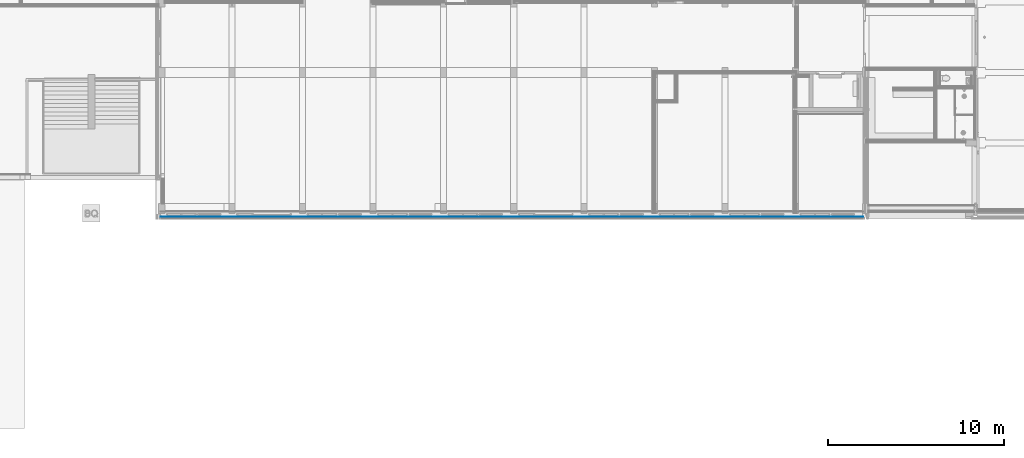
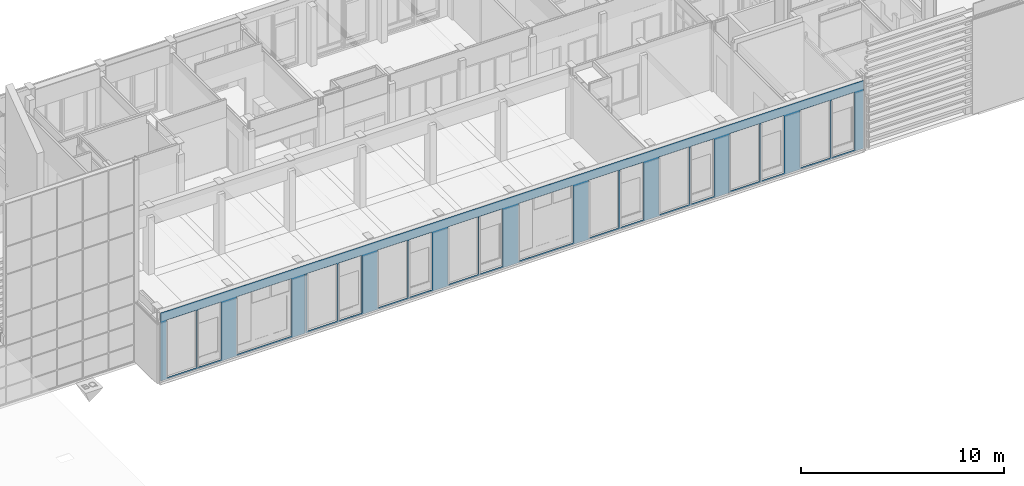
# One storey, part 55 of 109: 1 building element part, 18 openings, 1 element without a shape of its own.
"""IFC2X3 building model written with IfcOpenShell, lengths in millimetres."""

import ifcopenshell
import ifcopenshell.guid

model = None  # the IFC model being written
_history = None  # IfcOwnerHistory: only IFC2X3 demands one
_inside = {}  # id of a spatial element -> (the spatial element, [elements in it])
_under = {}  # id of a project, library or spatial element -> (it, [spatial elements below it])
_declared = {}  # id of a project -> (the project, [libraries it declares])
_typed = {}  # id of a type object -> (the type object, [elements of that type])
_made_of = {}  # id of a material, layer set ... -> (it, [elements and type objects made of it])


def new_model(schema):
    """Start an empty IFC model of exactly this schema.

    Asked for "IFC4X3", IfcOpenShell would pick the latest addendum, in which some entities
    have other attributes; the version numbers below select the first issue.
    IFC2X3 requires an IfcOwnerHistory on every rooted entity: one is made here for all.
    """
    global model, _history
    if schema == "IFC4X3":
        model = ifcopenshell.file(schema_version=(4, 3, 0, 0))
    else:
        model = ifcopenshell.file(schema=schema)
    _inside.clear()
    _under.clear()
    _declared.clear()
    _typed.clear()
    _made_of.clear()
    _history = None
    if model.schema == "IFC2X3":
        org = make("IfcOrganization", Name="unknown")
        user = make(
            "IfcPersonAndOrganization",
            ThePerson=make("IfcPerson", FamilyName="unknown"),
            TheOrganization=org,
        )
        app = make(
            "IfcApplication",
            ApplicationDeveloper=org,
            Version="unknown",
            ApplicationFullName="unknown",
            ApplicationIdentifier="unknown",
        )
        _history = make(
            "IfcOwnerHistory",
            OwningUser=user,
            OwningApplication=app,
            ChangeAction="ADDED",
            CreationDate=0,
        )
    return model


def make(cls, **values):
    """One entity of the class cls with the attributes given. An attribute that is None is left unset."""
    return model.create_entity(
        cls, **{name: value for name, value in values.items() if value is not None}
    )


def entity(cls, *values):
    """Any entity or typed value of the class cls, its attributes in the order of the schema. None: left unset."""
    e = model.create_entity(cls)
    for i, value in enumerate(values):
        if value is not None:
            e[i] = value
    return e


def rooted(cls, **values):
    """An entity with a GlobalId (a new one), such as an element, a storey or a relation."""
    return make(cls, GlobalId=ifcopenshell.guid.new(), OwnerHistory=_history, **values)


def si_unit(unit_type, name, prefix=None):
    """IfcSIUnit, for example si_unit("LENGTHUNIT", "METRE", prefix="MILLI")."""
    return make("IfcSIUnit", UnitType=unit_type, Prefix=prefix, Name=name)


def converted_unit(unit_type, name, factor, base, dimensions=None, offset=None):
    """IfcConversionBasedUnit, such as the inch: factor (a typed value) times the base unit."""
    return make(
        "IfcConversionBasedUnit"
        if offset is None
        else "IfcConversionBasedUnitWithOffset",
        ConversionOffset=offset,
        Dimensions=None
        if dimensions is None
        else entity("IfcDimensionalExponents", *dimensions),
        UnitType=unit_type,
        Name=name,
        ConversionFactor=make(
            "IfcMeasureWithUnit", ValueComponent=factor, UnitComponent=base
        ),
    )


def derived_unit(unit_type, elements):
    """IfcDerivedUnit: a product of units, each with its exponent."""
    return make(
        "IfcDerivedUnit",
        Elements=[
            make("IfcDerivedUnitElement", Unit=unit, Exponent=power)
            for unit, power in elements
        ],
        UnitType=unit_type,
    )


def money_unit(currency):
    """IfcMonetaryUnit."""
    return make("IfcMonetaryUnit", Currency=currency)


def assignment(units):
    """IfcUnitAssignment: the units of a project."""
    return None if units is None else make("IfcUnitAssignment", Units=units)


def point(xyz):
    """IfcCartesianPoint."""
    return None if xyz is None else make("IfcCartesianPoint", Coordinates=xyz)


def direction(xyz):
    """IfcDirection."""
    return None if xyz is None else make("IfcDirection", DirectionRatios=xyz)


def frame(location, z_axis=None, x_axis=None):
    """IfcAxis2Placement3D, a coordinate frame: its origin and axes. An axis left out is left unset."""
    return make(
        "IfcAxis2Placement3D",
        Location=point(location),
        Axis=direction(z_axis),
        RefDirection=direction(x_axis),
    )


def origin_with_axes():
    """The frame at (0, 0, 0) with the z axis (0, 0, 1) and the x axis (1, 0, 0) written out."""
    return frame((0.0, 0.0, 0.0), z_axis=(0.0, 0.0, 1.0), x_axis=(1.0, 0.0, 0.0))


def place(relative_to, where):
    """IfcLocalPlacement: puts the frame where relative to a parent placement (None: the world)."""
    return make(
        "IfcLocalPlacement", PlacementRelTo=relative_to, RelativePlacement=where
    )


def context(
    kind, dimensions, precision=None, world=None, true_north=None, identifier=None
):
    """IfcGeometricRepresentationContext, for example the 3D "Model" context."""
    return make(
        "IfcGeometricRepresentationContext",
        ContextIdentifier=identifier,
        ContextType=kind,
        CoordinateSpaceDimension=dimensions,
        Precision=precision,
        WorldCoordinateSystem=world,
        TrueNorth=true_north,
    )


def subcontext(parent, identifier, kind, view, scale=None):
    """IfcGeometricRepresentationSubContext, for example "Body" below "Model"."""
    return make(
        "IfcGeometricRepresentationSubContext",
        ContextIdentifier=identifier,
        ContextType=kind,
        ParentContext=parent,
        TargetScale=scale,
        TargetView=view,
    )


def project(units=None, contexts=None):
    """IfcProject with its units and contexts."""
    return rooted(
        "IfcProject",
        Name="project",
        RepresentationContexts=contexts,
        UnitsInContext=assignment(units),
    )


def spatial(cls, under=None, at=None, **own):
    """A site, building, storey or space (cls), placed at a placement, below another one or the project."""
    s = rooted(cls, ObjectPlacement=at, **own)
    if under is not None:
        _under.setdefault(under.id(), (under, []))[1].append(s)
    return s


def faces_of(points, faces, orient=None, outer=None):
    """IfcFace entities. A face is a list of loops; a loop is a list of indices into points, from 0.

    orient and outer hold one flag for each loop. By default every Orientation is true, the
    first loop of a face is its IfcFaceOuterBound and the others are IfcFaceBound.
    """
    made = []
    for i, loops in enumerate(faces):
        bounds = []
        for j, loop in enumerate(loops):
            is_outer = j == 0 if outer is None else outer[i][j]
            bounds.append(
                make(
                    "IfcFaceOuterBound" if is_outer else "IfcFaceBound",
                    Bound=make("IfcPolyLoop", Polygon=[points[k] for k in loop]),
                    Orientation=True if orient is None else orient[i][j],
                )
            )
        made.append(make("IfcFace", Bounds=bounds))
    return made


def faceted_brep(points, faces, orient=None, outer=None, voids=None):
    """IfcFacetedBrep: a solid bounded by flat faces; with voids (closed shells), ...WithVoids."""
    shared = [point(p) for p in points]
    hull = make("IfcClosedShell", CfsFaces=faces_of(shared, faces, orient, outer))
    if voids is None:
        return make("IfcFacetedBrep", Outer=hull)
    return make(
        "IfcFacetedBrepWithVoids",
        Outer=hull,
        Voids=[
            make(cls, CfsFaces=faces_of(shared, fs, o, b)) for cls, fs, o, b in voids
        ],
    )


def shape(context_of_items, identifier, shape_type, items):
    """IfcShapeRepresentation: the items that make up one representation, for example the "Body"."""
    return make(
        "IfcShapeRepresentation",
        ContextOfItems=context_of_items,
        RepresentationIdentifier=identifier,
        RepresentationType=shape_type,
        Items=items,
    )


def material(Name=None, Category=None):
    """IfcMaterial."""
    return make("IfcMaterial", Name=Name, Category=Category)


def made_of(thing, what):
    """Note that an element or type object is made of a material, layer set ...; save() writes the relation."""
    if what is not None:
        _made_of.setdefault(what.id(), (what, []))[1].append(thing)
    return thing


def type_object(cls, material=None, **own):
    """A type object (cls), such as IfcWallType, which elements share."""
    return made_of(rooted(cls, **own), material)


def element(
    cls,
    number,
    at=None,
    inside=None,
    cuts=None,
    type_object=None,
    material=None,
    context=None,
    identifier="Body",
    shape_type=None,
    held_by="IfcProductDefinitionShape",
    body=None,
    shapes=None,
    **own,
):
    """One element of the class cls, such as IfcWall. Its Tag is "e" and its number.

    at: its placement. inside: the storey or other place that contains it. cuts: it is an
    opening in that element (IfcRelVoidsElement). A single representation is given by context,
    identifier, shape_type and body (its items); several are given by shapes. held_by: the class
    of the entity that holds the representations. save() writes the other relations.
    """
    e = rooted(cls, Tag="e%d" % number, ObjectPlacement=at, **own)
    if body is not None:
        shapes = [shape(context, identifier, shape_type, body)]
    if shapes is not None:
        e.Representation = make(held_by, Representations=shapes)
    if inside is not None:
        _inside.setdefault(inside.id(), (inside, []))[1].append(e)
    if cuts is not None:
        rooted(
            "IfcRelVoidsElement", RelatingBuildingElement=cuts, RelatedOpeningElement=e
        )
    if type_object is not None:
        _typed.setdefault(type_object.id(), (type_object, []))[1].append(e)
    return made_of(e, material)


def aggregate(whole, parts):
    """IfcRelAggregates: a whole, such as a stair, and the parts it consists of."""
    return rooted("IfcRelAggregates", RelatingObject=whole, RelatedObjects=parts)


def save(model, path):
    """Write the relations noted so far, then the file.

    IfcRelAggregates (storeys below a building ...), IfcRelContainedInSpatialStructure (elements
    in a storey), IfcRelDefinesByType, IfcRelAssociatesMaterial and IfcRelDeclares: one each for
    every whole, place, type object, material and project.
    """
    for whole, parts in _under.values():
        aggregate(whole, parts)
    for where, things in _inside.values():
        rooted(
            "IfcRelContainedInSpatialStructure",
            RelatedElements=things,
            RelatingStructure=where,
        )
    for kind, things in _typed.values():
        rooted("IfcRelDefinesByType", RelatedObjects=things, RelatingType=kind)
    for what, things in _made_of.values():
        rooted("IfcRelAssociatesMaterial", RelatedObjects=things, RelatingMaterial=what)
    for by, libraries in _declared.values():
        rooted("IfcRelDeclares", RelatingContext=by, RelatedDefinitions=libraries)
    model.write(path)


model = new_model("IFC2X3")

# Units and contexts
model_context = context("Model", 3, precision=0.01, world=origin_with_axes(), true_north=direction((0.0, 1.0)))
body_context = subcontext(model_context, "Body", "Model", "MODEL_VIEW")
ifc_project = project(units=[si_unit("LENGTHUNIT", "METRE", prefix="MILLI"), si_unit("AREAUNIT", "SQUARE_METRE"), si_unit("VOLUMEUNIT", "CUBIC_METRE"), converted_unit("PLANEANGLEUNIT", "DEGREE", entity("IfcPlaneAngleMeasure", 0.0174532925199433), si_unit("PLANEANGLEUNIT", "RADIAN"), dimensions=[0, 0, 0, 0, 0, 0, 0]), money_unit("EUR"), converted_unit("TIMEUNIT", "Year", entity("IfcTimeMeasure", 31557600.0), si_unit("TIMEUNIT", "SECOND"), dimensions=[0, 0, 1, 0, 0, 0, 0]), si_unit("MASSUNIT", "GRAM", prefix="KILO"), si_unit("THERMODYNAMICTEMPERATUREUNIT", "DEGREE_CELSIUS"), si_unit("LUMINOUSINTENSITYUNIT", "LUMEN"), si_unit("ENERGYUNIT", "JOULE", prefix="MEGA"), derived_unit("THERMALCONDUCTANCEUNIT", [(si_unit("POWERUNIT", "WATT"), 1), (si_unit("LENGTHUNIT", "METRE"), -1), (si_unit("THERMODYNAMICTEMPERATUREUNIT", "KELVIN"), -1)]), derived_unit("SPECIFICHEATCAPACITYUNIT", [(si_unit("ENERGYUNIT", "JOULE"), 1), (si_unit("MASSUNIT", "GRAM", prefix="KILO"), -1), (si_unit("THERMODYNAMICTEMPERATUREUNIT", "KELVIN"), -1)]), derived_unit("MASSDENSITYUNIT", [(si_unit("MASSUNIT", "GRAM", prefix="KILO"), 1), (si_unit("VOLUMEUNIT", "CUBIC_METRE"), -1)])], contexts=[model_context])

# Site, building, storey
site_placement = place(None, origin_with_axes())
site = spatial("IfcSite", under=ifc_project, at=site_placement, Name="<site naam>", CompositionType="ELEMENT")
building_placement = place(site_placement, origin_with_axes())
building = spatial("IfcBuilding", under=site, at=building_placement, Name="<Naam gebouw>", CompositionType="ELEMENT")
storey_placement = place(building_placement, origin_with_axes())
storey = spatial("IfcBuildingStorey", under=building, at=storey_placement, Name="00 Begane grond", CompositionType="ELEMENT", Elevation=0.0)

# Wall, openings, building element part
wall_type = type_object("IfcWallType", Name="HSB_285 gevelbeplating 420", PredefinedType="NOTDEFINED")
wall_placement = place(storey_placement, frame((51865.00000000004, -297.9999999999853, 0.0), z_axis=(0.0, 0.0, 1.0), x_axis=(-1.0, 0.0, 0.0)))
wall = element("IfcWall", 1, at=wall_placement, inside=storey, type_object=wall_type, Name="21_Binnenwand_HSB_285")
opening_1_placement = place(wall_placement, frame((37163.99999999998, 0.0, 100.0), z_axis=(0.0, 0.0, 1.0), x_axis=(1.0, 0.0, 0.0)))
element("IfcOpeningElement", 2, at=opening_1_placement, cuts=wall, Name="21_BU-A-01b_305", context=body_context, shape_type="Brep", body=[
    faceted_brep([(-663.0000000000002, -212.9999999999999, 0.0), (-663.0000000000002, -212.9999999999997, 3450.0), (-663.0000000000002, 1.000000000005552, 3450.0), (-663.0000000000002, 1.00000000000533, 0.0), (-663.0000000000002, -421.0000000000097, 0.0), (-663.0000000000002, -421.0000000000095, 3450.0), (663.0000000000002, -212.9999999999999, 3450.0), (663.0000000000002, 1.000000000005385, 3450.0), (663.0000000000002, 1.000000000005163, 0.0), (663.0000000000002, -213.0000000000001, 0.0), (663.0000000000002, -421.0000000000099, 0.0), (663.0000000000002, -421.0000000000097, 3450.0)], [[[0, 1, 2, 3]], [[1, 0, 4, 5]], [[1, 6, 7, 2]], [[7, 8, 3, 2]], [[9, 0, 3, 8]], [[0, 9, 10, 4]], [[5, 4, 10, 11]], [[6, 1, 5, 11]], [[6, 9, 8, 7]], [[9, 6, 11, 10]]]),
])
opening_2_placement = place(wall_placement, frame((38753.9999887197, 0.0, 100.0), z_axis=(0.0, 0.0, 1.0), x_axis=(1.0, 0.0, 0.0)))
element("IfcOpeningElement", 3, at=opening_2_placement, cuts=wall, Name="21_BU-A-01a_305", context=body_context, shape_type="Brep", body=[
    faceted_brep([(-850.9999999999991, -212.9999999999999, 0.0), (-850.9999999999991, -212.9999999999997, 3450.0), (-850.9999999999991, 1.000000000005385, 3450.0), (-850.9999999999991, 1.000000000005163, 0.0), (-850.9999999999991, -421.0000000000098, 0.0), (-850.9999999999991, -421.0000000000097, 3450.0), (850.9999999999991, -212.9999999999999, 3450.0), (851.0000000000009, 1.000000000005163, 3450.0), (851.0000000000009, 1.000000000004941, 0.0), (850.9999999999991, -213.0000000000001, 0.0), (850.9999999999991, -421.00000000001, 0.0), (850.9999999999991, -421.0000000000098, 3450.0)], [[[0, 1, 2, 3]], [[1, 0, 4, 5]], [[1, 6, 7, 2]], [[7, 8, 3, 2]], [[9, 0, 3, 8]], [[0, 9, 10, 4]], [[5, 4, 10, 11]], [[6, 1, 5, 11]], [[6, 9, 8, 7]], [[9, 6, 11, 10]]]),
])
opening_3_placement = place(wall_placement, frame((29164.04998845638, 0.0, 100.0), z_axis=(0.0, 0.0, 1.0), x_axis=(1.0, 0.0, 0.0)))
element("IfcOpeningElement", 4, at=opening_3_placement, cuts=wall, Name="21_BU-A-01b_305", context=body_context, shape_type="Brep", body=[
    faceted_brep([(-663.0000000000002, -212.9999999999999, 0.0), (-663.0000000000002, -212.9999999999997, 3450.0), (-663.0000000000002, 1.000000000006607, 3450.0), (-663.0000000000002, 1.000000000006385, 0.0), (-663.0000000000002, -421.0000000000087, 0.0), (-663.0000000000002, -421.0000000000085, 3450.0), (663.0000000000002, -212.9999999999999, 3450.0), (663.0000000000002, 1.000000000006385, 3450.0), (663.0000000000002, 1.000000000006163, 0.0), (663.0000000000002, -213.0000000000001, 0.0), (663.0000000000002, -421.0000000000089, 0.0), (663.0000000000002, -421.0000000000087, 3450.0)], [[[0, 1, 2, 3]], [[1, 0, 4, 5]], [[1, 6, 7, 2]], [[7, 8, 3, 2]], [[9, 0, 3, 8]], [[0, 9, 10, 4]], [[5, 4, 10, 11]], [[6, 1, 5, 11]], [[6, 9, 8, 7]], [[9, 6, 11, 10]]]),
])
opening_4_placement = place(wall_placement, frame((26754.00000000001, 0.0, 100.0), z_axis=(0.0, 0.0, 1.0), x_axis=(1.0, 0.0, 0.0)))
element("IfcOpeningElement", 5, at=opening_4_placement, cuts=wall, Name="21_BU-A-01a_305", context=body_context, shape_type="Brep", body=[
    faceted_brep([(-850.9999999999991, -212.9999999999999, 0.0), (-850.9999999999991, -212.9999999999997, 3450.0), (-850.9999999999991, 1.000000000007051, 3450.0), (-850.9999999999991, 1.000000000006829, 0.0), (-850.9999999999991, -421.0000000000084, 0.0), (-850.9999999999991, -421.0000000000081, 3450.0), (850.9999999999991, -212.9999999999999, 3450.0), (850.9999999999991, 1.000000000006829, 3450.0), (850.9999999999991, 1.000000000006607, 0.0), (850.9999999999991, -213.0000000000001, 0.0), (850.9999999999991, -421.0000000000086, 0.0), (850.9999999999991, -421.0000000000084, 3450.0)], [[[0, 1, 2, 3]], [[1, 0, 4, 5]], [[1, 6, 7, 2]], [[7, 8, 3, 2]], [[9, 0, 3, 8]], [[0, 9, 10, 4]], [[5, 4, 10, 11]], [[6, 1, 5, 11]], [[6, 9, 8, 7]], [[9, 6, 11, 10]]]),
])
opening_5_placement = place(wall_placement, frame((25163.98053643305, 0.0, 100.0), z_axis=(0.0, 0.0, 1.0), x_axis=(1.0, 0.0, 0.0)))
element("IfcOpeningElement", 6, at=opening_5_placement, cuts=wall, Name="21_BU-A-01b_305", context=body_context, shape_type="Brep", body=[
    faceted_brep([(-663.0000000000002, -212.9999999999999, 0.0), (-663.0000000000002, -212.9999999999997, 3450.0), (-663.0000000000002, 1.000000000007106, 3450.0), (-663.0000000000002, 1.000000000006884, 0.0), (-663.0000000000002, -421.0000000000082, 0.0), (-663.0000000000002, -421.000000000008, 3450.0), (663.0000000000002, -212.9999999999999, 3450.0), (663.0000000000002, 1.00000000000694, 3450.0), (663.0000000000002, 1.000000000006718, 0.0), (663.0000000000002, -213.0000000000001, 0.0), (663.0000000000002, -421.0000000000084, 0.0), (663.0000000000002, -421.0000000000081, 3450.0)], [[[0, 1, 2, 3]], [[1, 0, 4, 5]], [[1, 6, 7, 2]], [[7, 8, 3, 2]], [[9, 0, 3, 8]], [[0, 9, 10, 4]], [[5, 4, 10, 11]], [[6, 1, 5, 11]], [[6, 9, 8, 7]], [[9, 6, 11, 10]]]),
])
opening_6_placement = place(wall_placement, frame((13164.00001128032, 0.0, 100.0), z_axis=(0.0, 0.0, 1.0), x_axis=(1.0, 0.0, 0.0)))
element("IfcOpeningElement", 7, at=opening_6_placement, cuts=wall, Name="21_BU-A-01b_305", context=body_context, shape_type="Brep", body=[
    faceted_brep([(-662.9999999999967, -212.9999999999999, 0.0), (-662.9999999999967, -212.9999999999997, 3450.0), (-662.9999999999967, 1.000000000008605, 3450.0), (-662.9999999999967, 1.000000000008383, 0.0), (-662.9999999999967, -421.0000000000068, 0.0), (-662.9999999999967, -421.0000000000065, 3450.0), (662.9999999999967, -212.9999999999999, 3450.0), (662.9999999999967, 1.000000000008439, 3450.0), (662.9999999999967, 1.000000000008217, 0.0), (662.9999999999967, -213.0000000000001, 0.0), (662.9999999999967, -421.0000000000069, 0.0), (662.9999999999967, -421.0000000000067, 3450.0)], [[[0, 1, 2, 3]], [[1, 0, 4, 5]], [[1, 6, 7, 2]], [[7, 8, 3, 2]], [[9, 0, 3, 8]], [[0, 9, 10, 4]], [[5, 4, 10, 11]], [[6, 1, 5, 11]], [[6, 9, 8, 7]], [[9, 6, 11, 10]]]),
])
opening_7_placement = place(wall_placement, frame((21164.00000000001, 0.0, 100.0), z_axis=(0.0, 0.0, 1.0), x_axis=(1.0, 0.0, 0.0)))
element("IfcOpeningElement", 8, at=opening_7_placement, cuts=wall, Name="21_BU-A-01b_305", context=body_context, shape_type="Brep", body=[
    faceted_brep([(-663.0000000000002, -212.9999999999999, 0.0), (-663.0000000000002, -212.9999999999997, 3450.0), (-663.0000000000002, 1.000000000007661, 3450.0), (-663.0000000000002, 1.000000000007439, 0.0), (-663.0000000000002, -421.0000000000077, 0.0), (-663.0000000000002, -421.0000000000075, 3450.0), (663.0000000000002, -212.9999999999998, 3450.0), (663.0000000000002, 1.000000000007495, 3450.0), (663.0000000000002, 1.000000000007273, 0.0), (663.0000000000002, -213.0000000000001, 0.0), (663.0000000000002, -421.0000000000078, 0.0), (663.0000000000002, -421.0000000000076, 3450.0)], [[[0, 1, 2, 3]], [[1, 0, 4, 5]], [[1, 6, 7, 2]], [[7, 8, 3, 2]], [[9, 0, 3, 8]], [[0, 9, 10, 4]], [[5, 4, 10, 11]], [[6, 1, 5, 11]], [[6, 9, 8, 7]], [[9, 6, 11, 10]]]),
])
opening_8_placement = place(wall_placement, frame((22753.98053643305, 0.0, 100.0), z_axis=(0.0, 0.0, 1.0), x_axis=(1.0, 0.0, 0.0)))
element("IfcOpeningElement", 9, at=opening_8_placement, cuts=wall, Name="21_BU-A-01a_305", context=body_context, shape_type="Brep", body=[
    faceted_brep([(-850.9999999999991, -212.9999999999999, 0.0), (-850.9999999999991, -212.9999999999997, 3450.0), (-850.9999999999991, 1.000000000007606, 3450.0), (-850.9999999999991, 1.000000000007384, 0.0), (-850.9999999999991, -421.0000000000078, 0.0), (-850.9999999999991, -421.0000000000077, 3450.0), (850.9999999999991, -212.9999999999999, 3450.0), (850.9999999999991, 1.000000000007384, 3450.0), (850.9999999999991, 1.000000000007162, 0.0), (850.9999999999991, -213.0000000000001, 0.0), (850.9999999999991, -421.0000000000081, 0.0), (850.9999999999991, -421.0000000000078, 3450.0)], [[[0, 1, 2, 3]], [[1, 0, 4, 5]], [[1, 6, 7, 2]], [[7, 8, 3, 2]], [[9, 0, 3, 8]], [[0, 9, 10, 4]], [[5, 4, 10, 11]], [[6, 1, 5, 11]], [[6, 9, 8, 7]], [[9, 6, 11, 10]]]),
])
opening_9_placement = place(wall_placement, frame((14754.00000000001, 0.0, 100.0), z_axis=(0.0, 0.0, 1.0), x_axis=(1.0, 0.0, 0.0)))
element("IfcOpeningElement", 10, at=opening_9_placement, cuts=wall, Name="21_BU-A-01a_305", context=body_context, shape_type="Brep", body=[
    faceted_brep([(-850.9999999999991, -212.9999999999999, 0.0), (-850.9999999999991, -212.9999999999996, 3450.0), (-850.9999999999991, 1.000000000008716, 3450.0), (-850.9999999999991, 1.000000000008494, 0.0), (-850.9999999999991, -421.0000000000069, 0.0), (-850.9999999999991, -421.0000000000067, 3450.0), (850.9999999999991, -212.9999999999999, 3450.0), (850.9999999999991, 1.000000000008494, 3450.0), (850.9999999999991, 1.000000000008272, 0.0), (850.9999999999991, -213.0000000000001, 0.0), (850.9999999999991, -421.000000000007, 0.0), (850.9999999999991, -421.0000000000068, 3450.0)], [[[0, 1, 2, 3]], [[1, 0, 4, 5]], [[1, 6, 7, 2]], [[7, 8, 3, 2]], [[9, 0, 3, 8]], [[0, 9, 10, 4]], [[5, 4, 10, 11]], [[6, 1, 5, 11]], [[6, 9, 8, 7]], [[9, 6, 11, 10]]]),
])
opening_10_placement = place(wall_placement, frame((10754.00000000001, 0.0, 100.0), z_axis=(0.0, 0.0, 1.0), x_axis=(1.0, 0.0, 0.0)))
element("IfcOpeningElement", 11, at=opening_10_placement, cuts=wall, Name="21_BU-A-01a_305", context=body_context, shape_type="Brep", body=[
    faceted_brep([(-850.9999999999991, -212.9999999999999, 0.0), (-850.9999999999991, -212.9999999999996, 3450.0), (-850.9999999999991, 1.000000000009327, 3450.0), (-850.9999999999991, 1.000000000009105, 0.0), (-850.9999999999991, -421.0000000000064, 0.0), (-850.9999999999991, -421.0000000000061, 3450.0), (850.9999999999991, -212.9999999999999, 3450.0), (850.9999999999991, 1.000000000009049, 3450.0), (850.9999999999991, 1.000000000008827, 0.0), (850.9999999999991, -213.0000000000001, 0.0), (850.9999999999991, -421.0000000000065, 0.0), (850.9999999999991, -421.0000000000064, 3450.0)], [[[0, 1, 2, 3]], [[1, 0, 4, 5]], [[1, 6, 7, 2]], [[7, 8, 3, 2]], [[9, 0, 3, 8]], [[0, 9, 10, 4]], [[5, 4, 10, 11]], [[6, 1, 5, 11]], [[6, 9, 8, 7]], [[9, 6, 11, 10]]]),
])
opening_11_placement = place(wall_placement, frame((5164.000011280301, 0.0, 100.0), z_axis=(0.0, 0.0, 1.0), x_axis=(1.0, 0.0, 0.0)))
element("IfcOpeningElement", 12, at=opening_11_placement, cuts=wall, Name="21_BU-A-01b_305", context=body_context, shape_type="Brep", body=[
    faceted_brep([(-662.9999999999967, -212.9999999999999, 0.0), (-662.9999999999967, -212.9999999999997, 3450.0), (-662.9999999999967, 1.00000000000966, 3450.0), (-662.9999999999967, 1.000000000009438, 0.0), (-662.9999999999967, -421.0000000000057, 0.0), (-662.9999999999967, -421.0000000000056, 3450.0), (662.9999999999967, -212.9999999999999, 3450.0), (662.9999999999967, 1.000000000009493, 3450.0), (662.9999999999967, 1.000000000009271, 0.0), (662.9999999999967, -213.0000000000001, 0.0), (662.9999999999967, -421.0000000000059, 0.0), (662.9999999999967, -421.0000000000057, 3450.0)], [[[0, 1, 2, 3]], [[1, 0, 4, 5]], [[1, 6, 7, 2]], [[7, 8, 3, 2]], [[9, 0, 3, 8]], [[0, 9, 10, 4]], [[5, 4, 10, 11]], [[6, 1, 5, 11]], [[6, 9, 8, 7]], [[9, 6, 11, 10]]]),
])
opening_12_placement = place(wall_placement, frame((6754.000000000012, 0.0, 100.0), z_axis=(0.0, 0.0, 1.0), x_axis=(1.0, 0.0, 0.0)))
element("IfcOpeningElement", 13, at=opening_12_placement, cuts=wall, Name="21_BU-A-01a_305", context=body_context, shape_type="Brep", body=[
    faceted_brep([(-850.9999999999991, -212.9999999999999, 0.0), (-850.9999999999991, -212.9999999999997, 3450.0), (-850.9999999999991, 1.000000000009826, 3450.0), (-850.9999999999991, 1.000000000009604, 0.0), (-850.9999999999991, -421.0000000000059, 0.0), (-850.9999999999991, -421.0000000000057, 3450.0), (850.9999999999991, -212.9999999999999, 3450.0), (850.9999999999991, 1.000000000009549, 3450.0), (850.9999999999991, 1.000000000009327, 0.0), (850.9999999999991, -213.0000000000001, 0.0), (850.9999999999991, -421.0000000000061, 0.0), (850.9999999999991, -421.0000000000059, 3450.0)], [[[0, 1, 2, 3]], [[1, 0, 4, 5]], [[1, 6, 7, 2]], [[7, 8, 3, 2]], [[9, 0, 3, 8]], [[0, 9, 10, 4]], [[5, 4, 10, 11]], [[6, 1, 5, 11]], [[6, 9, 8, 7]], [[9, 6, 11, 10]]]),
])
opening_13_placement = place(wall_placement, frame((1164.000011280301, 0.0, 100.0), z_axis=(0.0, 0.0, 1.0), x_axis=(1.0, 0.0, 0.0)))
element("IfcOpeningElement", 14, at=opening_13_placement, cuts=wall, Name="21_BU-A-01b_305", context=body_context, shape_type="Brep", body=[
    faceted_brep([(-662.9999999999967, -212.9999999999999, 0.0), (-662.9999999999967, -212.9999999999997, 3450.0), (-662.9999999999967, 1.000000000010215, 3450.0), (-662.9999999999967, 1.000000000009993, 0.0), (-662.9999999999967, -421.0000000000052, 0.0), (-662.9999999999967, -421.000000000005, 3450.0), (662.9999999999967, -212.9999999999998, 3450.0), (662.9999999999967, 1.000000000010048, 3450.0), (662.9999999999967, 1.000000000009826, 0.0), (662.9999999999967, -213.0, 0.0), (662.9999999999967, -421.0000000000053, 0.0), (662.9999999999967, -421.0000000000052, 3450.0)], [[[0, 1, 2, 3]], [[1, 0, 4, 5]], [[1, 6, 7, 2]], [[7, 8, 3, 2]], [[9, 0, 3, 8]], [[0, 9, 10, 4]], [[5, 4, 10, 11]], [[6, 1, 5, 11]], [[6, 9, 8, 7]], [[9, 6, 11, 10]]]),
])
opening_14_placement = place(wall_placement, frame((2754.000000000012, 0.0, 100.0), z_axis=(0.0, 0.0, 1.0), x_axis=(1.0, 0.0, 0.0)))
element("IfcOpeningElement", 15, at=opening_14_placement, cuts=wall, Name="21_BU-A-01a_305", context=body_context, shape_type="Brep", body=[
    faceted_brep([(-850.9999999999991, -212.9999999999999, 0.0), (-850.9999999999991, -212.9999999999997, 3450.0), (-850.9999999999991, 1.000000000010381, 3450.0), (-850.9999999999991, 1.000000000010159, 0.0), (-850.9999999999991, -421.0000000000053, 0.0), (-850.9999999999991, -421.0000000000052, 3450.0), (850.9999999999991, -212.9999999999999, 3450.0), (850.9999999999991, 1.000000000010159, 3450.0), (850.9999999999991, 1.000000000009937, 0.0), (850.9999999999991, -213.0000000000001, 0.0), (850.9999999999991, -421.0000000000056, 0.0), (850.9999999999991, -421.0000000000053, 3450.0)], [[[0, 1, 2, 3]], [[1, 0, 4, 5]], [[1, 6, 7, 2]], [[7, 8, 3, 2]], [[9, 0, 3, 8]], [[0, 9, 10, 4]], [[5, 4, 10, 11]], [[6, 1, 5, 11]], [[6, 9, 8, 7]], [[9, 6, 11, 10]]]),
])
opening_15_placement = place(wall_placement, frame((9164.000011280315, 0.0, 100.0), z_axis=(0.0, 0.0, 1.0), x_axis=(1.0, 0.0, 0.0)))
element("IfcOpeningElement", 16, at=opening_15_placement, cuts=wall, Name="21_BU-A-01b_305", context=body_context, shape_type="Brep", body=[
    faceted_brep([(-662.9999999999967, -212.9999999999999, 0.0), (-662.9999999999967, -212.9999999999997, 3450.0), (-662.9999999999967, 1.000000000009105, 3450.0), (-662.9999999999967, 1.000000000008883, 0.0), (-662.9999999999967, -421.0000000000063, 0.0), (-662.9999999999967, -421.000000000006, 3450.0), (662.9999999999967, -212.9999999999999, 3450.0), (662.9999999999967, 1.000000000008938, 3450.0), (662.9999999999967, 1.000000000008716, 0.0), (662.9999999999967, -213.0000000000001, 0.0), (662.9999999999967, -421.0000000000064, 0.0), (662.9999999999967, -421.0000000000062, 3450.0)], [[[0, 1, 2, 3]], [[1, 0, 4, 5]], [[1, 6, 7, 2]], [[7, 8, 3, 2]], [[9, 0, 3, 8]], [[0, 9, 10, 4]], [[5, 4, 10, 11]], [[6, 1, 5, 11]], [[6, 9, 8, 7]], [[9, 6, 11, 10]]]),
])
opening_16_placement = place(wall_placement, frame((34053.00007085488, 0.0, 103.0000398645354), z_axis=(0.0, 0.0, 1.0), x_axis=(1.0, 0.0, 0.0)))
element("IfcOpeningElement", 17, at=opening_16_placement, cuts=wall, Name="21_BU-C-01_305", context=body_context, shape_type="Brep", body=[
    faceted_brep([(-1551.999929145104, -205.0, 0.0), (-1551.999929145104, -204.9999999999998, 3451.998648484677), (-1551.999929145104, 1.000000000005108, 3451.998648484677), (-1551.999929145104, 1.000000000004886, 0.0), (-1551.999929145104, -421.0000000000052, 0.0), (-1551.999929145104, -421.000000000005, 3451.998648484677), (1551.999929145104, -204.9999999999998, 3451.998648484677), (1551.999929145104, 1.000000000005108, 3451.998648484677), (1551.999929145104, 1.000000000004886, 0.0), (1551.999929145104, -205.0, 0.0), (1551.999929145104, -421.0000000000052, 0.0), (1551.999929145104, -421.0000000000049, 3451.998648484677)], [[[0, 1, 2, 3]], [[1, 0, 4, 5]], [[1, 6, 7, 2]], [[7, 8, 3, 2]], [[9, 0, 3, 8]], [[0, 9, 10, 4]], [[5, 4, 10, 11]], [[6, 1, 5, 11]], [[6, 9, 8, 7]], [[9, 6, 11, 10]]]),
])
opening_17_placement = place(wall_placement, frame((18053.00484185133, 0.0, 103.0000398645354), z_axis=(0.0, 0.0, 1.0), x_axis=(1.0, 0.0, 0.0)))
element("IfcOpeningElement", 18, at=opening_17_placement, cuts=wall, Name="21_BU-C-01_305", context=body_context, shape_type="Brep", body=[
    faceted_brep([(-1551.999929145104, -205.0, 0.0), (-1551.999929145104, -204.9999999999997, 3451.998648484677), (-1551.999929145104, 1.000000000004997, 3451.998648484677), (-1551.999929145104, 1.00000000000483, 0.0), (-1551.999929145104, -421.0000000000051, 0.0), (-1551.999929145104, -421.0000000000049, 3451.998648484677), (1551.999929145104, -204.9999999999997, 3451.998648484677), (1551.999929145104, 1.000000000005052, 3451.998648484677), (1551.999929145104, 1.00000000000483, 0.0), (1551.999929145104, -205.0, 0.0), (1551.999929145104, -421.0000000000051, 0.0), (1551.999929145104, -421.0000000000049, 3451.998648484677)], [[[0, 1, 2, 3]], [[1, 0, 4, 5]], [[1, 6, 7, 2]], [[7, 8, 3, 2]], [[9, 0, 3, 8]], [[0, 9, 10, 4]], [[5, 4, 10, 11]], [[6, 1, 5, 11]], [[6, 9, 8, 7]], [[9, 6, 11, 10]]]),
])
opening_18_placement = place(wall_placement, frame((30754.04506446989, 0.0, 100.0), z_axis=(0.0, 0.0, 1.0), x_axis=(1.0, 0.0, 0.0)))
element("IfcOpeningElement", 19, at=opening_18_placement, cuts=wall, Name="21_BU-A-01a_305", context=body_context, shape_type="Brep", body=[
    faceted_brep([(-850.9999999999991, -212.9999999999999, 0.0), (-850.9999999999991, -212.9999999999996, 3450.0), (-850.9999999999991, 1.000000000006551, 3450.0), (-850.9999999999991, 1.000000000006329, 0.0), (-850.9999999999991, -421.0000000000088, 0.0), (-850.9999999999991, -421.0000000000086, 3450.0), (850.9999999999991, -212.9999999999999, 3450.0), (850.9999999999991, 1.000000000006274, 3450.0), (850.9999999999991, 1.000000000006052, 0.0), (850.9999999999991, -213.0000000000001, 0.0), (850.9999999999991, -421.000000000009, 0.0), (850.9999999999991, -421.0000000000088, 3450.0)], [[[0, 1, 2, 3]], [[1, 0, 4, 5]], [[1, 6, 7, 2]], [[7, 8, 3, 2]], [[9, 0, 3, 8]], [[0, 9, 10, 4]], [[5, 4, 10, 11]], [[6, 1, 5, 11]], [[6, 9, 8, 7]], [[9, 6, 11, 10]]]),
])
ifc_material = material(Name="folie_dampopen")
building_element_part_placement = place(wall_placement, origin_with_axes())
building_element_part = element("IfcBuildingElementPart", 20, at=building_element_part_placement, material=ifc_material, Name="folie_dampopen", context=body_context, shape_type="Brep", body=[
    faceted_brep([(589.0010753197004, -102.4999999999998, 3555.0), (590.001075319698, -102.4999999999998, 3555.0), (590.001075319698, -102.5, 0.0), (3710.000004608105, -102.4999999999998, 0.0), (3710.000004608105, -102.4999999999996, 3555.0), (3711.000004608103, -102.4999999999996, 3555.0), (3711.000004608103, -102.4999999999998, 0.0), (4589.0010753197, -102.4999999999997, 0.0), (4589.0010753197, -102.4999999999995, 3555.0), (4590.001075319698, -102.4999999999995, 3555.0), (4590.001075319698, -102.4999999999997, 0.0), (7710.000004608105, -102.4999999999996, 0.0), (7710.000004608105, -102.4999999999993, 3555.0), (7711.000004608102, -102.4999999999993, 3555.0), (7711.000004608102, -102.4999999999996, 0.0), (8589.0010753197, -102.4999999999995, 0.0), (8589.0010753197, -102.4999999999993, 3555.0), (8590.001075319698, -102.4999999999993, 3555.0), (8590.001075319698, -102.4999999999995, 0.0), (11710.00000460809, -102.4999999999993, 0.0), (11710.00000460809, -102.4999999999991, 3555.0), (11711.00000460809, -102.4999999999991, 3555.0), (11711.00000460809, -102.4999999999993, 0.0), (12589.00107531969, -102.4999999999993, 0.0), (12589.00107531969, -102.499999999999, 3555.0), (12590.00107531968, -102.499999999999, 3555.0), (12590.00107531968, -102.4999999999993, 0.0), (15710.00000460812, -102.4999999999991, 0.0), (15710.00000460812, -102.4999999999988, 3555.0), (15711.00000460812, -102.4999999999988, 3555.0), (15711.00000460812, -102.4999999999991, 0.0), (16589.00107531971, -102.499999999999, 0.0), (16589.00107531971, -102.4999999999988, 3555.0), (16590.00107531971, -102.4999999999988, 3555.0), (16590.00107531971, -102.499999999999, 0.0), (19710.0000046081, -102.4999999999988, 0.0), (19710.0000046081, -102.4999999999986, 3555.0), (19711.0000046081, -102.4999999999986, 3555.0), (19711.0000046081, -102.4999999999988, 0.0), (20589.0010753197, -102.4999999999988, 0.0), (20589.0010753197, -102.4999999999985, 3555.0), (20590.0010753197, -102.4999999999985, 3555.0), (20590.0010753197, -102.4999999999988, 0.0), (23709.98054104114, -102.4999999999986, 0.0), (23709.98054104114, -102.4999999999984, 3555.0), (23710.98054104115, -102.4999999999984, 3555.0), (23710.98054104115, -102.4999999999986, 0.0), (24588.98161175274, -102.4999999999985, 0.0), (24588.98161175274, -102.4999999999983, 3555.0), (24589.98161175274, -102.4999999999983, 3555.0), (24589.98161175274, -102.4999999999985, 0.0), (27710.0000046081, -102.4999999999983, 0.0), (27710.0000046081, -102.4999999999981, 3555.0), (27711.00000460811, -102.4999999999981, 3555.0), (27711.00000460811, -102.4999999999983, 0.0), (28589.0010753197, -102.4999999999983, 0.0), (28589.0010753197, -102.4999999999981, 3555.0), (28590.0010753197, -102.4999999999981, 3555.0), (28590.0010753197, -102.4999999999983, 0.0), (31710.0000046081, -102.4999999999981, 0.0), (31710.0000046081, -102.4999999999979, 3555.0), (31711.0000046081, -102.4999999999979, 3555.0), (31711.0000046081, -102.4999999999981, 0.0), (32589.00107531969, -102.499999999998, 0.0), (32589.00107531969, -102.4999999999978, 3555.0), (32590.00107531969, -102.4999999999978, 3555.0), (32590.00107531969, -102.499999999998, 0.0), (35710.00000460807, -102.4999999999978, 0.0), (35710.00000460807, -102.4999999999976, 3555.0), (35711.00000460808, -102.4999999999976, 3555.0), (35711.00000460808, -102.4999999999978, 0.0), (36589.00107531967, -102.4999999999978, 0.0), (36589.00107531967, -102.4999999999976, 3555.0), (36590.00107531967, -102.4999999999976, 3555.0), (36590.00107531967, -102.4999999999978, 0.0), (39930.00004797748, -102.4999999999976, 0.0), (39930.00004797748, -102.4999999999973, 4100.000039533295), (0.0, -102.4999999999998, 4100.000039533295), (0.0, -102.5, 0.0), (589.0010753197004, -102.5, 0.0), (590.001075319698, -101.9999999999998, 3555.0), (589.0010753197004, -101.9999999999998, 3555.0), (590.001075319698, -102.0, 0.0), (3710.000004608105, -101.9999999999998, 0.0), (3710.000004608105, -101.9999999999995, 3555.0), (3711.000004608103, -101.9999999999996, 3555.0), (3711.000004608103, -101.9999999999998, 0.0), (4589.0010753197, -101.9999999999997, 0.0), (4589.0010753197, -101.9999999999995, 3555.0), (4590.001075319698, -101.9999999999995, 3555.0), (4590.001075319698, -101.9999999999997, 0.0), (7710.000004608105, -101.9999999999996, 0.0), (7710.000004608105, -101.9999999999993, 3555.0), (7711.000004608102, -101.9999999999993, 3555.0), (7711.000004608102, -101.9999999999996, 0.0), (8589.0010753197, -101.9999999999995, 0.0), (8589.0010753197, -101.9999999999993, 3555.0), (8590.001075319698, -101.9999999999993, 3555.0), (8590.001075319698, -101.9999999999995, 0.0), (11710.00000460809, -101.9999999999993, 0.0), (11710.00000460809, -101.9999999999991, 3555.0), (11711.00000460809, -101.9999999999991, 3555.0), (11711.00000460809, -101.9999999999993, 0.0), (12589.00107531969, -101.9999999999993, 0.0), (12589.00107531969, -101.999999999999, 3555.0), (12590.00107531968, -101.999999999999, 3555.0), (12590.00107531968, -101.9999999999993, 0.0), (15710.00000460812, -101.9999999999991, 0.0), (15710.00000460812, -101.9999999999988, 3555.0), (15711.00000460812, -101.9999999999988, 3555.0), (15711.00000460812, -101.9999999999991, 0.0), (16589.00107531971, -101.999999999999, 0.0), (16589.00107531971, -101.9999999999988, 3555.0), (16590.00107531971, -101.9999999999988, 3555.0), (16590.00107531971, -101.999999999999, 0.0), (19710.0000046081, -101.9999999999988, 0.0), (19710.0000046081, -101.9999999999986, 3555.0), (19711.0000046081, -101.9999999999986, 3555.0), (19711.0000046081, -101.9999999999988, 0.0), (20589.0010753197, -101.9999999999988, 0.0), (20589.0010753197, -101.9999999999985, 3555.0), (20590.0010753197, -101.9999999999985, 3555.0), (20590.0010753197, -101.9999999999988, 0.0), (23709.98054104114, -101.9999999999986, 0.0), (23709.98054104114, -101.9999999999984, 3555.0), (23710.98054104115, -101.9999999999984, 3555.0), (23710.98054104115, -101.9999999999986, 0.0), (24588.98161175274, -101.9999999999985, 0.0), (24588.98161175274, -101.9999999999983, 3555.0), (24589.98161175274, -101.9999999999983, 3555.0), (24589.98161175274, -101.9999999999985, 0.0), (27710.0000046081, -101.9999999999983, 0.0), (27710.0000046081, -101.9999999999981, 3555.0), (27711.00000460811, -101.9999999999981, 3555.0), (27711.00000460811, -101.9999999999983, 0.0), (28589.0010753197, -101.9999999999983, 0.0), (28589.0010753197, -101.9999999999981, 3555.0), (28590.0010753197, -101.9999999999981, 3555.0), (28590.0010753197, -101.9999999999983, 0.0), (31710.0000046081, -101.9999999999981, 0.0), (31710.0000046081, -101.9999999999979, 3555.0), (31711.0000046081, -101.9999999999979, 3555.0), (31711.0000046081, -101.9999999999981, 0.0), (32589.00107531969, -101.999999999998, 0.0), (32589.00107531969, -101.9999999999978, 3555.0), (32590.00107531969, -101.9999999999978, 3555.0), (32590.00107531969, -101.999999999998, 0.0), (35710.00000460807, -101.9999999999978, 0.0), (35710.00000460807, -101.9999999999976, 3555.0), (35711.00000460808, -101.9999999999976, 3555.0), (35711.00000460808, -101.9999999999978, 0.0), (36589.00107531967, -101.9999999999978, 0.0), (36589.00107531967, -101.9999999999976, 3555.0), (36590.00107531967, -101.9999999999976, 3555.0), (36590.00107531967, -101.9999999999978, 0.0), (39930.00004797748, -101.9999999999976, 0.0), (39930.00004797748, -101.9999999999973, 4100.000039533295), (0.0, -101.9999999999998, 4100.000039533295), (0.0, -102.0, 0.0), (589.0010753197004, -102.0, 0.0)], [[[0, 1, 2, 3, 4, 5, 6, 7, 8, 9, 10, 11, 12, 13, 14, 15, 16, 17, 18, 19, 20, 21, 22, 23, 24, 25, 26, 27, 28, 29, 30, 31, 32, 33, 34, 35, 36, 37, 38, 39, 40, 41, 42, 43, 44, 45, 46, 47, 48, 49, 50, 51, 52, 53, 54, 55, 56, 57, 58, 59, 60, 61, 62, 63, 64, 65, 66, 67, 68, 69, 70, 71, 72, 73, 74, 75, 76, 77, 78, 79]], [[80, 1, 0, 81]], [[82, 2, 1, 80]], [[3, 2, 82, 83]], [[84, 4, 3, 83]], [[85, 5, 4, 84]], [[86, 6, 5, 85]], [[7, 6, 86, 87]], [[88, 8, 7, 87]], [[89, 9, 8, 88]], [[90, 10, 9, 89]], [[90, 91, 11, 10]], [[92, 12, 11, 91]], [[93, 13, 12, 92]], [[94, 14, 13, 93]], [[15, 14, 94, 95]], [[96, 16, 15, 95]], [[97, 17, 16, 96]], [[98, 18, 17, 97]], [[19, 18, 98, 99]], [[100, 20, 19, 99]], [[101, 21, 20, 100]], [[102, 22, 21, 101]], [[23, 22, 102, 103]], [[104, 24, 23, 103]], [[105, 25, 24, 104]], [[106, 26, 25, 105]], [[27, 26, 106, 107]], [[108, 28, 27, 107]], [[109, 29, 28, 108]], [[110, 30, 29, 109]], [[31, 30, 110, 111]], [[112, 32, 31, 111]], [[113, 33, 32, 112]], [[114, 34, 33, 113]], [[35, 34, 114, 115]], [[116, 36, 35, 115]], [[117, 37, 36, 116]], [[118, 38, 37, 117]], [[39, 38, 118, 119]], [[120, 40, 39, 119]], [[121, 41, 40, 120]], [[122, 42, 41, 121]], [[122, 123, 43, 42]], [[124, 44, 43, 123]], [[125, 45, 44, 124]], [[126, 46, 45, 125]], [[47, 46, 126, 127]], [[128, 48, 47, 127]], [[129, 49, 48, 128]], [[130, 50, 49, 129]], [[51, 50, 130, 131]], [[132, 52, 51, 131]], [[133, 53, 52, 132]], [[134, 54, 53, 133]], [[55, 54, 134, 135]], [[136, 56, 55, 135]], [[137, 57, 56, 136]], [[138, 58, 57, 137]], [[138, 139, 59, 58]], [[140, 60, 59, 139]], [[141, 61, 60, 140]], [[142, 62, 61, 141]], [[63, 62, 142, 143]], [[144, 64, 63, 143]], [[145, 65, 64, 144]], [[146, 66, 65, 145]], [[146, 147, 67, 66]], [[148, 68, 67, 147]], [[149, 69, 68, 148]], [[150, 70, 69, 149]], [[71, 70, 150, 151]], [[152, 72, 71, 151]], [[153, 73, 72, 152]], [[154, 74, 73, 153]], [[75, 74, 154, 155]], [[155, 156, 76, 75]], [[157, 77, 76, 156]], [[158, 78, 77, 157]], [[158, 159, 79, 78]], [[81, 0, 79, 159]], [[80, 81, 159, 158, 157, 156, 155, 154, 153, 152, 151, 150, 149, 148, 147, 146, 145, 144, 143, 142, 141, 140, 139, 138, 137, 136, 135, 134, 133, 132, 131, 130, 129, 128, 127, 126, 125, 124, 123, 122, 121, 120, 119, 118, 117, 116, 115, 114, 113, 112, 111, 110, 109, 108, 107, 106, 105, 104, 103, 102, 101, 100, 99, 98, 97, 96, 95, 94, 93, 92, 91, 90, 89, 88, 87, 86, 85, 84, 83, 82]]]),
])
aggregate(wall, [building_element_part])

save(model, "model.ifc")
